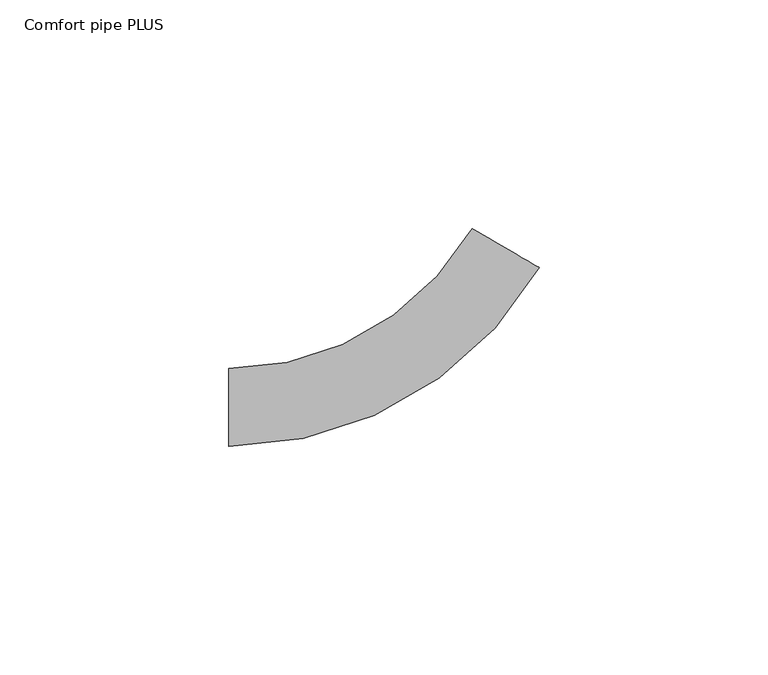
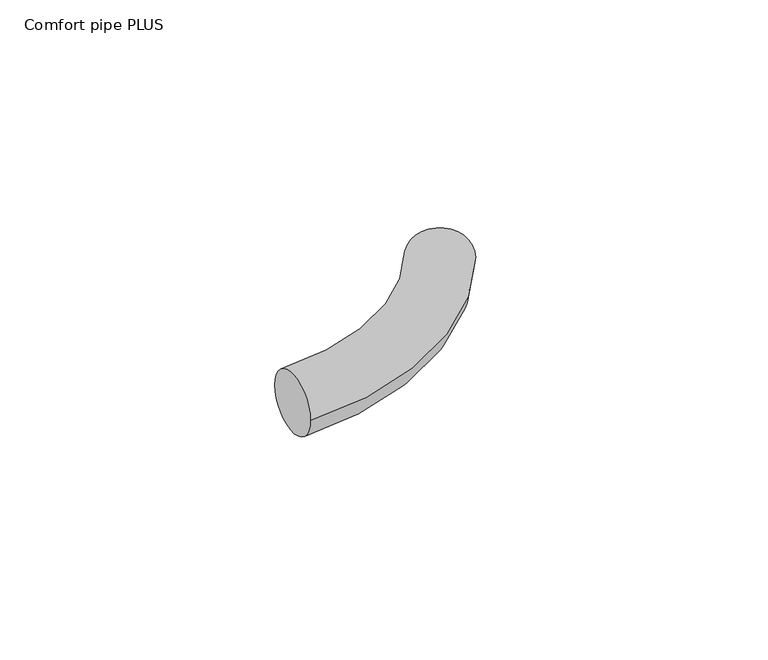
"""IFC4 building model written with IfcOpenShell, lengths in millimetres: pipe fitting geometry, 400_5-_Uponor_curved_Elbow : Comfort pipe PLUS."""

from ifc_helpers import new_model, si_unit, point, frame, origin, place, context, project, spatial, circle_curve, ellipse_curve, trimmed, source, transform, mapped, element, save
from ifc_brep_helpers import plane_surface, revolved_surface, advanced_brep


def comfort_pipe_plus_28575780(model_context):
    return source(origin(), model_context, "Body", "AdvancedBrep", [
        advanced_brep(
        [(-40.2991808, -8.5, 0.0), (-40.2991808, 8.5, 0.0), (27.5865288, 30.5819784, 0.0), (12.8851649, 39.1183652, 0.0)],
        [
            (0, 1, circle_curve(frame((-40.2991808, 0.0, 0.0), z_axis=(-1.0, 0.0, 0.0), x_axis=(0.0, 1.0, 0.0)), 8.5)),
            (1, 0, circle_curve(frame((-40.2991808, 0.0, 0.0), z_axis=(-1.0, 0.0, 0.0), x_axis=(0.0, 1.0, 0.0)), 8.5)),
            (2, 3, circle_curve(frame((20.2358469, 34.8501718, 0.0), z_axis=(0.502140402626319, 0.8647861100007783, 0.0), x_axis=(-0.8647861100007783, 0.502140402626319, 0.0)), 8.5)),
            (3, 2, circle_curve(frame((20.2358469, 34.8501718, 0.0), z_axis=(0.502140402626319, 0.8647861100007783, 0.0), x_axis=(-0.8647861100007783, 0.502140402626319, 0.0)), 8.5)),
            (3, 1, circle_curve(frame((-40.2991808, 70.0, 0.0), z_axis=(0.0, 0.0, -1.0), x_axis=(0.0, -1.0, 0.0)), 61.5)),
            (0, 2, circle_curve(frame((-40.2991808, 70.0, 0.0), z_axis=(0.0, 0.0, 1.0), x_axis=(0.0, -1.0, 0.0)), 78.5)),
        ],
        [
            plane_surface(frame((-40.2991808, 0.0, 0.0), z_axis=(-1.0, 0.0, 0.0), x_axis=(0.0, 0.0, 1.0))),
            plane_surface(frame((20.2358469, 34.8501718, 0.0), z_axis=(0.5021404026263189, 0.8647861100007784, 0.0), x_axis=(0.0, 0.0, 1.0))),
            revolved_surface(trimmed(ellipse_curve(frame((-40.2991808, 0.0, 0.0), z_axis=(-1.0, 0.0, 0.0), x_axis=(0.0, 1.0, 0.0)), 8.5, 8.5), [point((-40.2991808, -8.5, 0.0))], [point((-40.2991808, 8.5, 0.0))], True, "CARTESIAN"), (-40.2991808, 70.0, 0.0), (0.0, 0.0, 1.0)),
            revolved_surface(trimmed(ellipse_curve(frame((-40.2991808, 0.0, 0.0), z_axis=(-1.0, 0.0, 0.0), x_axis=(0.0, 1.0, 0.0)), 8.5, 8.5), [point((-40.2991808, 8.5, 0.0))], [point((-40.2991808, -8.5, 0.0))], True, "CARTESIAN"), (-40.2991808, 70.0, 0.0), (0.0, 0.0, 1.0)),
        ],
        [
            (0, [[1, 2]]),
            (1, [[3, 4]]),
            (2, [[5, -1, 6, -4]]),
            (3, [[-6, -2, -5, -3]]),
        ],
    ),
    ])


if __name__ == "__main__":
    model = new_model("IFC4")
    model_context = context("Model", 3, world=origin())
    ifc_project = project(units=[si_unit("LENGTHUNIT", "METRE", prefix="MILLI")], contexts=[model_context])
    site = spatial("IfcSite", under=ifc_project)
    building = spatial("IfcBuilding", under=site)
    placement = place(None, origin())
    comfort_pipe_plus_shape = comfort_pipe_plus_28575780(model_context)
    element("IfcPipeFitting", 1, ObjectType="400_5-_Uponor_curved_Elbow : Comfort pipe PLUS", at=placement, inside=building, context=model_context, shape_type="MappedRepresentation", body=[
        mapped(comfort_pipe_plus_shape, transform((0.0, 0.0, 0.0), x_axis=(1.0, 0.0, 0.0), y_axis=(0.0, 1.0, 0.0), z_axis=(0.0, 0.0, 1.0))),
    ])
    save(model, "model.ifc")
